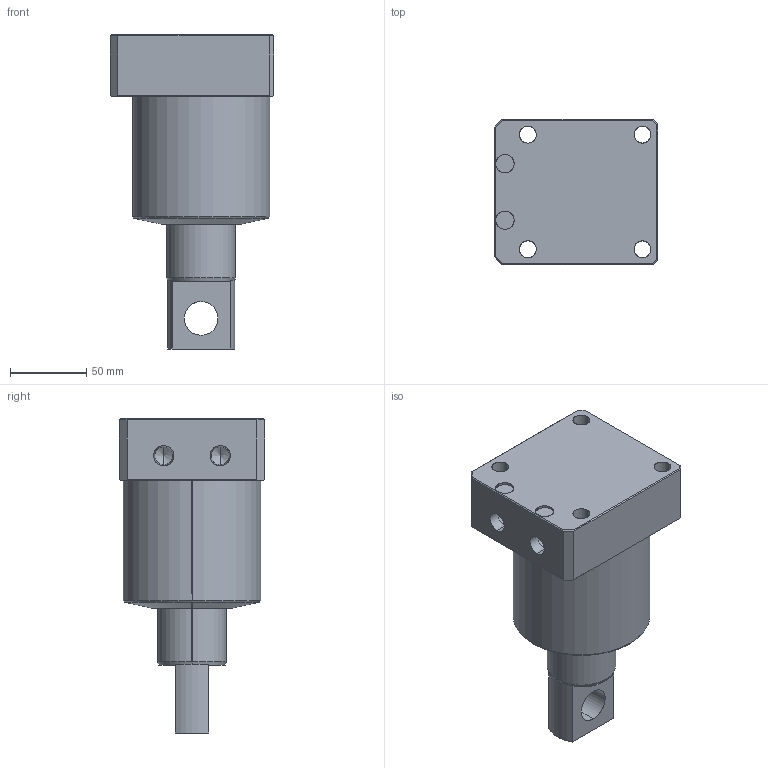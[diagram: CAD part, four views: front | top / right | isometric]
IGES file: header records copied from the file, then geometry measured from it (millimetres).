
Start section: SolidWorks IGES file using analytic representation for surfaces
Global section: file name: E:\ALL SSVT IGS MODEL\ALL-SWING-IGS\SWING-90\SC02-901-902-LH-RH-BM-PTYPE\SB03-901-RP-BM-PTYPE.IGS; native system: SolidWorks 2019; preprocessor: SolidWorks 2019; author: SSVT; date: 210823.132430; units: millimetre
Bounding box: 107 x 95 x 205.5 mm (x, y, z)
Surface area: 104774.5 mm2 (no closed solid volume)
Topology: 0 solids, 0 shells, 73 faces, 1173 edges, 1169 vertices
Faces by surface type: revolution 41, bspline 32
